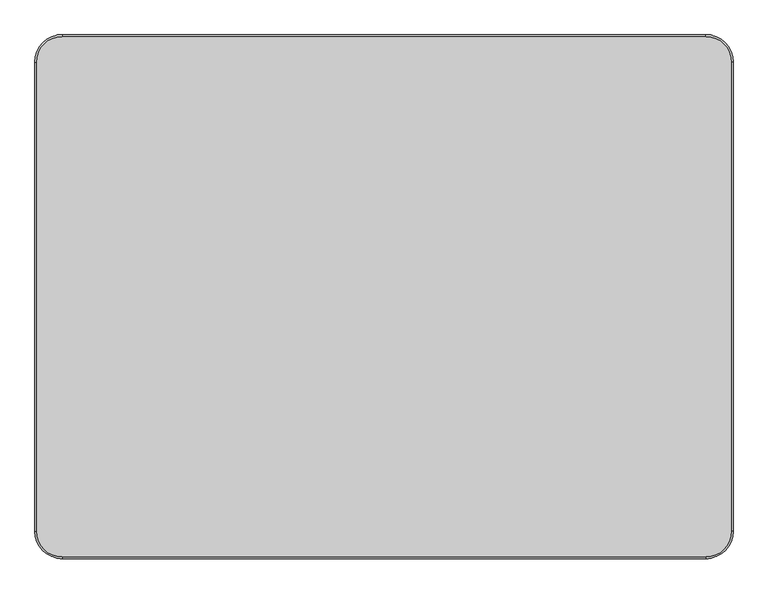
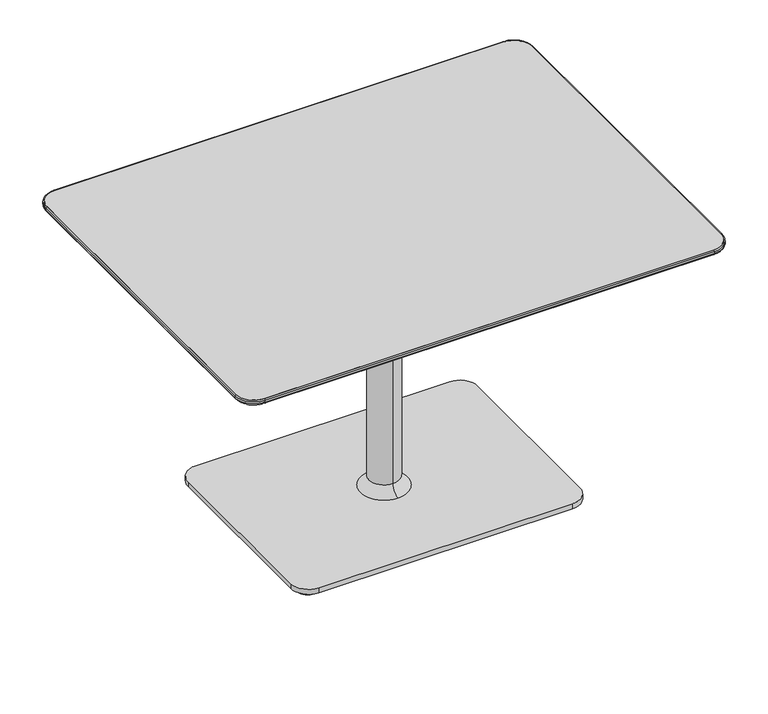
"""IFC4 building model written with IfcOpenShell, lengths in millimetres: furniture geometry, Coalesse_AM_Table_Occasional_Lagunitas_Work : 28.5H x 36D x 48W."""

import ifcopenshell
import ifcopenshell.guid

model = None  # the IFC model being written
_history = None  # IfcOwnerHistory: only IFC2X3 demands one
_inside = {}  # id of a spatial element -> (the spatial element, [elements in it])
_under = {}  # id of a project, library or spatial element -> (it, [spatial elements below it])
_declared = {}  # id of a project -> (the project, [libraries it declares])
_typed = {}  # id of a type object -> (the type object, [elements of that type])
_made_of = {}  # id of a material, layer set ... -> (it, [elements and type objects made of it])


def new_model(schema):
    """Start an empty IFC model of exactly this schema.

    Asked for "IFC4X3", IfcOpenShell would pick the latest addendum, in which some entities
    have other attributes; the version numbers below select the first issue.
    IFC2X3 requires an IfcOwnerHistory on every rooted entity: one is made here for all.
    """
    global model, _history
    if schema == "IFC4X3":
        model = ifcopenshell.file(schema_version=(4, 3, 0, 0))
    else:
        model = ifcopenshell.file(schema=schema)
    _inside.clear()
    _under.clear()
    _declared.clear()
    _typed.clear()
    _made_of.clear()
    _history = None
    if model.schema == "IFC2X3":
        org = make("IfcOrganization", Name="unknown")
        user = make(
            "IfcPersonAndOrganization",
            ThePerson=make("IfcPerson", FamilyName="unknown"),
            TheOrganization=org,
        )
        app = make(
            "IfcApplication",
            ApplicationDeveloper=org,
            Version="unknown",
            ApplicationFullName="unknown",
            ApplicationIdentifier="unknown",
        )
        _history = make(
            "IfcOwnerHistory",
            OwningUser=user,
            OwningApplication=app,
            ChangeAction="ADDED",
            CreationDate=0,
        )
    return model


def make(cls, **values):
    """One entity of the class cls with the attributes given. An attribute that is None is left unset."""
    return model.create_entity(
        cls, **{name: value for name, value in values.items() if value is not None}
    )


def rooted(cls, **values):
    """An entity with a GlobalId (a new one), such as an element, a storey or a relation."""
    return make(cls, GlobalId=ifcopenshell.guid.new(), OwnerHistory=_history, **values)


def si_unit(unit_type, name, prefix=None):
    """IfcSIUnit, for example si_unit("LENGTHUNIT", "METRE", prefix="MILLI")."""
    return make("IfcSIUnit", UnitType=unit_type, Prefix=prefix, Name=name)


def assignment(units):
    """IfcUnitAssignment: the units of a project."""
    return None if units is None else make("IfcUnitAssignment", Units=units)


def point(xyz):
    """IfcCartesianPoint."""
    return None if xyz is None else make("IfcCartesianPoint", Coordinates=xyz)


def direction(xyz):
    """IfcDirection."""
    return None if xyz is None else make("IfcDirection", DirectionRatios=xyz)


def frame(location, z_axis=None, x_axis=None):
    """IfcAxis2Placement3D, a coordinate frame: its origin and axes. An axis left out is left unset."""
    return make(
        "IfcAxis2Placement3D",
        Location=point(location),
        Axis=direction(z_axis),
        RefDirection=direction(x_axis),
    )


def frame_2d(location, x_axis=None):
    """IfcAxis2Placement2D, a coordinate frame in the plane: its origin and x axis."""
    return make(
        "IfcAxis2Placement2D", Location=point(location), RefDirection=direction(x_axis)
    )


def origin():
    """The frame at (0, 0, 0) with its axes left unset."""
    return frame((0.0, 0.0, 0.0))


def origin_with_axes():
    """The frame at (0, 0, 0) with the z axis (0, 0, 1) and the x axis (1, 0, 0) written out."""
    return frame((0.0, 0.0, 0.0), z_axis=(0.0, 0.0, 1.0), x_axis=(1.0, 0.0, 0.0))


def place(relative_to, where):
    """IfcLocalPlacement: puts the frame where relative to a parent placement (None: the world)."""
    return make(
        "IfcLocalPlacement", PlacementRelTo=relative_to, RelativePlacement=where
    )


def context(
    kind, dimensions, precision=None, world=None, true_north=None, identifier=None
):
    """IfcGeometricRepresentationContext, for example the 3D "Model" context."""
    return make(
        "IfcGeometricRepresentationContext",
        ContextIdentifier=identifier,
        ContextType=kind,
        CoordinateSpaceDimension=dimensions,
        Precision=precision,
        WorldCoordinateSystem=world,
        TrueNorth=true_north,
    )


def project(units=None, contexts=None):
    """IfcProject with its units and contexts."""
    return rooted(
        "IfcProject",
        Name="project",
        RepresentationContexts=contexts,
        UnitsInContext=assignment(units),
    )


def spatial(cls, under=None, at=None, **own):
    """A site, building, storey or space (cls), placed at a placement, below another one or the project."""
    s = rooted(cls, ObjectPlacement=at, **own)
    if under is not None:
        _under.setdefault(under.id(), (under, []))[1].append(s)
    return s


def polyline(points):
    """IfcPolyline through the points."""
    return make("IfcPolyline", Points=[point(p) for p in points])


def circle_curve(where, radius):
    """IfcCircle in the frame where."""
    return make("IfcCircle", Position=where, Radius=radius)


def ellipse_curve(where, semi_axis1, semi_axis2):
    """IfcEllipse in the frame where."""
    return make(
        "IfcEllipse", Position=where, SemiAxis1=semi_axis1, SemiAxis2=semi_axis2
    )


def trimmed(basis, trim1, trim2, sense, master):
    """IfcTrimmedCurve: the piece of a basis curve between two trims."""
    return make(
        "IfcTrimmedCurve",
        BasisCurve=basis,
        Trim1=trim1,
        Trim2=trim2,
        SenseAgreement=sense,
        MasterRepresentation=master,
    )


def segment(curve, same_sense, transition):
    """IfcCompositeCurveSegment."""
    return make(
        "IfcCompositeCurveSegment",
        Transition=transition,
        SameSense=same_sense,
        ParentCurve=curve,
    )


def composite_curve(segments, self_intersect=None):
    """IfcCompositeCurve: segments joined end to end."""
    return make("IfcCompositeCurve", Segments=segments, SelfIntersect=self_intersect)


def outline(outer, holes=None, kind="AREA"):
    """IfcArbitraryClosedProfileDef: a profile drawn as a closed curve; with holes, ...WithVoids."""
    if holes is None:
        return make("IfcArbitraryClosedProfileDef", ProfileType=kind, OuterCurve=outer)
    return make(
        "IfcArbitraryProfileDefWithVoids",
        ProfileType=kind,
        OuterCurve=outer,
        InnerCurves=holes,
    )


def extrude(swept, where, along, depth):
    """IfcExtrudedAreaSolid: the profile swept, set in the frame where, extruded along a direction by depth."""
    return make(
        "IfcExtrudedAreaSolid",
        SweptArea=swept,
        Position=where,
        ExtrudedDirection=direction(along),
        Depth=depth,
    )


def shape(context_of_items, identifier, shape_type, items):
    """IfcShapeRepresentation: the items that make up one representation, for example the "Body"."""
    return make(
        "IfcShapeRepresentation",
        ContextOfItems=context_of_items,
        RepresentationIdentifier=identifier,
        RepresentationType=shape_type,
        Items=items,
    )


def source(mapping_origin, context_of_items, identifier, shape_type, items):
    """IfcRepresentationMap: a shape defined once, which mapped items show again and again."""
    return make(
        "IfcRepresentationMap",
        MappingOrigin=mapping_origin,
        MappedRepresentation=shape(context_of_items, identifier, shape_type, items),
    )


def transform(
    local_origin,
    x_axis=None,
    y_axis=None,
    z_axis=None,
    scale=None,
    scale2=None,
    scale3=None,
    uniform=True,
):
    """IfcCartesianTransformationOperator3D, or its non-uniform kind. x_axis, y_axis, z_axis: its Axis1, 2, 3."""
    if uniform:
        return make(
            "IfcCartesianTransformationOperator3D",
            Axis1=direction(x_axis),
            Axis2=direction(y_axis),
            LocalOrigin=point(local_origin),
            Scale=scale,
            Axis3=direction(z_axis),
        )
    return make(
        "IfcCartesianTransformationOperator3DnonUniform",
        Axis1=direction(x_axis),
        Axis2=direction(y_axis),
        LocalOrigin=point(local_origin),
        Scale=scale,
        Axis3=direction(z_axis),
        Scale2=scale2,
        Scale3=scale3,
    )


def mapped(mapping_source, mapping_target):
    """IfcMappedItem: shows the shape of a source again, moved by a transform."""
    return make(
        "IfcMappedItem", MappingSource=mapping_source, MappingTarget=mapping_target
    )


def made_of(thing, what):
    """Note that an element or type object is made of a material, layer set ...; save() writes the relation."""
    if what is not None:
        _made_of.setdefault(what.id(), (what, []))[1].append(thing)
    return thing


def element(
    cls,
    number,
    at=None,
    inside=None,
    cuts=None,
    type_object=None,
    material=None,
    context=None,
    identifier="Body",
    shape_type=None,
    held_by="IfcProductDefinitionShape",
    body=None,
    shapes=None,
    **own,
):
    """One element of the class cls, such as IfcWall. Its Tag is "e" and its number.

    at: its placement. inside: the storey or other place that contains it. cuts: it is an
    opening in that element (IfcRelVoidsElement). A single representation is given by context,
    identifier, shape_type and body (its items); several are given by shapes. held_by: the class
    of the entity that holds the representations. save() writes the other relations.
    """
    e = rooted(cls, Tag="e%d" % number, ObjectPlacement=at, **own)
    if body is not None:
        shapes = [shape(context, identifier, shape_type, body)]
    if shapes is not None:
        e.Representation = make(held_by, Representations=shapes)
    if inside is not None:
        _inside.setdefault(inside.id(), (inside, []))[1].append(e)
    if cuts is not None:
        rooted(
            "IfcRelVoidsElement", RelatingBuildingElement=cuts, RelatedOpeningElement=e
        )
    if type_object is not None:
        _typed.setdefault(type_object.id(), (type_object, []))[1].append(e)
    return made_of(e, material)


def aggregate(whole, parts):
    """IfcRelAggregates: a whole, such as a stair, and the parts it consists of."""
    return rooted("IfcRelAggregates", RelatingObject=whole, RelatedObjects=parts)


def save(model, path):
    """Write the relations noted so far, then the file.

    IfcRelAggregates (storeys below a building ...), IfcRelContainedInSpatialStructure (elements
    in a storey), IfcRelDefinesByType, IfcRelAssociatesMaterial and IfcRelDeclares: one each for
    every whole, place, type object, material and project.
    """
    for whole, parts in _under.values():
        aggregate(whole, parts)
    for where, things in _inside.values():
        rooted(
            "IfcRelContainedInSpatialStructure",
            RelatedElements=things,
            RelatingStructure=where,
        )
    for kind, things in _typed.values():
        rooted("IfcRelDefinesByType", RelatedObjects=things, RelatingType=kind)
    for what, things in _made_of.values():
        rooted("IfcRelAssociatesMaterial", RelatedObjects=things, RelatingMaterial=what)
    for by, libraries in _declared.values():
        rooted("IfcRelDeclares", RelatingContext=by, RelatedDefinitions=libraries)
    model.write(path)


def plane_surface(at):
    """IfcPlane: the flat surface through the origin of the frame at, square to its z axis."""
    return make("IfcPlane", Position=at)


def cylinder_surface(at, radius):
    """IfcCylindricalSurface: all points at the distance radius from the z axis of the frame at."""
    return make("IfcCylindricalSurface", Position=at, Radius=radius)


def revolved_surface(curve, axis_point, axis_direction):
    """IfcSurfaceOfRevolution: the curve turned about the line through axis_point along axis_direction."""
    return make(
        "IfcSurfaceOfRevolution",
        SweptCurve=make("IfcArbitraryOpenProfileDef", ProfileType="CURVE", Curve=curve),
        AxisPosition=make("IfcAxis1Placement", Location=point(axis_point), Axis=direction(axis_direction)),
    )


def spline_surface(u_degree, v_degree, points, u_multiplicities, v_multiplicities, u_knots, v_knots, weights=None):
    """IfcBSplineSurfaceWithKnots; with weights, IfcRationalBSplineSurfaceWithKnots. points: one row for each step in u."""
    own = dict(
        UDegree=u_degree,
        VDegree=v_degree,
        ControlPointsList=[[point(p) for p in row] for row in points],
        SurfaceForm="UNSPECIFIED",
        UClosed=False,
        VClosed=False,
        SelfIntersect=False,
        UMultiplicities=u_multiplicities,
        VMultiplicities=v_multiplicities,
        UKnots=u_knots,
        VKnots=v_knots,
        KnotSpec="UNSPECIFIED",
    )
    if weights is None:
        return make("IfcBSplineSurfaceWithKnots", **own)
    return make("IfcRationalBSplineSurfaceWithKnots", WeightsData=weights, **own)


def advanced_brep(points, edges, surfaces, faces):
    """IfcAdvancedBrep: a solid bounded by faces that lie on surfaces and meet in shared edges.

    An edge is (start, end): straight between two places in points (the first is 0);
    or (start, end, curve); or (start, end, curve, False) where it runs against its curve.
    A face is (place in surfaces, loops), or (place, loops, False) where it looks against
    its surface's normal. A loop lists edges by number (the first is 1), with a minus sign
    where the edge is run from its end to its start. The first loop is the outer one.
    """
    corners = [point(p) for p in points]
    vertices = [make("IfcVertexPoint", VertexGeometry=c) for c in corners]
    made = []
    for start, end, *more in edges:
        made.append(
            make(
                "IfcEdgeCurve",
                EdgeStart=vertices[start],
                EdgeEnd=vertices[end],
                EdgeGeometry=more[0] if more else make("IfcPolyline", Points=[corners[start], corners[end]]),
                SameSense=more[1] if len(more) > 1 else True,
            )
        )
    hull = []
    for where, loops, *sense in faces:
        bounds = []
        for j, loop in enumerate(loops):
            ring = [make("IfcOrientedEdge", EdgeElement=made[abs(k) - 1], Orientation=k > 0) for k in loop]
            bounds.append(
                make(
                    "IfcFaceOuterBound" if j == 0 else "IfcFaceBound",
                    Bound=make("IfcEdgeLoop", EdgeList=ring),
                    Orientation=True,
                )
            )
        hull.append(make("IfcAdvancedFace", Bounds=bounds, FaceSurface=surfaces[where], SameSense=sense[0] if sense else True))
    return make("IfcAdvancedBrep", Outer=make("IfcClosedShell", CfsFaces=hull))


def furniture_e7e90b19(model_context):
    return source(origin(), model_context, "Body", "SolidModel", [
        advanced_brep(
        [(606.8570059, 409.7063839, 711.8724172), (562.4070059, 454.1563839, 711.8724172), (-561.7969941, 454.1563839, 711.8724172), (-606.2469941, 409.7063839, 711.8724172), (-606.2469941, -409.7063839, 711.8724172), (-561.7969941, -454.1563839, 711.8724172), (562.4070059, -454.1563839, 711.8724172), (606.8570059, -409.7063839, 711.8724172), (539.0389826, 386.3390054, 693.8099277), (539.0389826, -386.3390054, 693.8099277), (-538.4289709, -386.3390054, 693.8099277), (-538.4289709, 386.3390054, 693.8099277)],
        [
            (0, 1, circle_curve(frame((562.4070059, 409.7063839, 711.8724172), z_axis=(0.0, 0.0, 1.0), x_axis=(1.0, 0.0, 0.0)), 44.45)),
            (1, 2),
            (2, 3, circle_curve(frame((-561.7969941, 409.7063839, 711.8724172), z_axis=(0.0, 0.0, 1.0), x_axis=(1.0, 0.0, 0.0)), 44.45)),
            (3, 4),
            (4, 5, circle_curve(frame((-561.7969941, -409.7063839, 711.8724172), z_axis=(0.0, 0.0, 1.0), x_axis=(1.0, 0.0, 0.0)), 44.45)),
            (5, 6),
            (6, 7, circle_curve(frame((562.4070059, -409.7063839, 711.8724172), z_axis=(0.0, 0.0, 1.0), x_axis=(1.0, 0.0, 0.0)), 44.45)),
            (7, 0),
            (8, 9),
            (9, 10),
            (10, 11),
            (11, 8),
            (0, 8),
            (8, 1),
            (11, 2),
            (11, 3),
            (10, 4),
            (10, 5),
            (9, 6),
            (9, 7),
        ],
        [
            plane_surface(frame((0.3050059, 0.0, 711.8724172), z_axis=(0.0, 0.0, 1.0), x_axis=(-1.0, 0.0, 0.0))),
            plane_surface(frame((0.3050059, 0.0, 693.8099277), z_axis=(0.0, 0.0, -1.0), x_axis=(-1.0, 0.0, 0.0))),
            spline_surface(2, 1, [[(539.0389826, 386.3390054, 693.8099277), (606.8570059, 409.7063839, 711.8724172)], [(539.0389826, 386.3390054, 693.8099277), (606.8570059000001, 454.15638390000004, 711.8724172)], [(539.0389826, 386.3390054, 693.8099277), (562.4070059, 454.1563839, 711.8724172)]], [3, 3], [2, 2], [0.0, 1.0], [0.0, 1.0], weights=[[1.0, 1.0], [0.7071067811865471, 0.7071067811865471], [1.0, 1.0]]),
            plane_surface(frame((0.3050059, 386.3390054, 693.8099277), z_axis=(0.0, 0.25736805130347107, -0.9663134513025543), x_axis=(-1.0, 0.0, 0.0))),
            spline_surface(2, 1, [[(-538.4289709, 386.3390054, 693.8099277), (-561.7969941, 454.1563839, 711.8724172)], [(-538.4289709, 386.3390054, 693.8099277), (-606.2469940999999, 454.1563838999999, 711.8724172)], [(-538.4289709, 386.3390054, 693.8099277), (-606.2469941, 409.7063839, 711.8724172)]], [3, 3], [2, 2], [0.0, 1.0], [0.0, 1.0], weights=[[1.0, 1.0], [0.707106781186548, 0.707106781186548], [1.0, 1.0]]),
            plane_surface(frame((-538.4289709, 0.0, 693.8099277), z_axis=(-0.25736576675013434, 0.0, -0.9663140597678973), x_axis=(0.0, -1.0, 0.0))),
            spline_surface(2, 1, [[(-538.4289709, -386.3390054, 693.8099277), (-606.2469941, -409.7063839, 711.8724172)], [(-538.4289709, -386.3390054, 693.8099277), (-606.2469941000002, -454.15638390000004, 711.8724172)], [(-538.4289709, -386.3390054, 693.8099277), (-561.7969941, -454.1563839, 711.8724172)]], [3, 3], [2, 2], [0.0, 1.0], [0.0, 1.0], weights=[[1.0, 1.0], [0.7071067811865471, 0.7071067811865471], [1.0, 1.0]]),
            plane_surface(frame((0.3050059, -386.3390054, 693.8099277), z_axis=(0.0, -0.25736805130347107, -0.9663134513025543), x_axis=(1.0, 0.0, 0.0))),
            spline_surface(2, 1, [[(539.0389826, -386.3390054, 693.8099277), (562.4070059, -454.1563839, 711.8724172)], [(539.0389826, -386.3390054, 693.8099277), (606.8570058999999, -454.1563838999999, 711.8724172)], [(539.0389826, -386.3390054, 693.8099277), (606.8570059, -409.7063839, 711.8724172)]], [3, 3], [2, 2], [0.0, 1.0], [0.0, 1.0], weights=[[1.0, 1.0], [0.707106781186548, 0.707106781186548], [1.0, 1.0]]),
            plane_surface(frame((539.0389826, 0.0, 693.8099277), z_axis=(0.2573657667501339, 0.0, -0.9663140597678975), x_axis=(0.0, 1.0, 0.0))),
        ],
        [
            (0, [[1, 2, 3, 4, 5, 6, 7, 8]]),
            (1, [[9, 10, 11, 12]]),
            (2, [[-1, 13, 14]]),
            (3, [[-12, 15, -2, -14]]),
            (4, [[-3, -15, 16]]),
            (5, [[-11, 17, -4, -16]]),
            (6, [[-5, -17, 18]]),
            (7, [[-10, 19, -6, -18]]),
            (8, [[-7, -19, 20]]),
            (9, [[-9, -13, -8, -20]]),
        ],
    ),
        extrude(outline(composite_curve([segment(trimmed(circle_curve(frame_2d((562.4070059, 409.7063839)), 44.45), [point((562.4070059, 454.1563839))], [point((606.8570059, 409.7063839))], False, "CARTESIAN"), True, "CONTINUOUS"), segment(polyline([(606.8570059, 409.7063839), (606.8570059, -409.7063839)]), True, "CONTINUOUS"), segment(trimmed(circle_curve(frame_2d((562.4070059, -409.7063839)), 44.45), [point((606.8570059, -409.7063839))], [point((562.4070059, -454.1563839))], False, "CARTESIAN"), True, "CONTINUOUS"), segment(polyline([(562.4070059, -454.1563839), (-561.7969941, -454.1563839)]), True, "CONTINUOUS"), segment(trimmed(circle_curve(frame_2d((-561.7969941, -409.7063839)), 44.45), [point((-561.7969941, -454.1563839))], [point((-606.2469941, -409.7063839))], False, "CARTESIAN"), True, "CONTINUOUS"), segment(polyline([(-606.2469941, -409.7063839), (-606.2469941, 409.7063839)]), True, "CONTINUOUS"), segment(trimmed(circle_curve(frame_2d((-561.7969941, 409.7063839)), 44.45), [point((-606.2469941, 409.7063839))], [point((-561.7969941, 454.1563839))], False, "CARTESIAN"), True, "CONTINUOUS"), segment(polyline([(-561.7969941, 454.1563839), (562.4070059, 454.1563839)]), True, "CONTINUOUS")], self_intersect=False)), frame((0.0, 0.0, 711.8724172), z_axis=(0.0, 0.0, 1.0), x_axis=(1.0, 0.0, 0.0)), (0.0, 0.0, 1.0), 12.0275828),
        extrude(outline(composite_curve([segment(trimmed(circle_curve(frame_2d((-321.7443146, 226.8029495)), 25.4), [point((-347.1443146, 226.8029495))], [point((-296.3443146, 226.8029495))], False, "CARTESIAN"), True, "CONTINUOUS"), segment(trimmed(circle_curve(frame_2d((-321.7443146, 226.8029495)), 25.4), [point((-296.3443146, 226.8029495))], [point((-347.1443146, 226.8029495))], False, "CARTESIAN"), True, "CONTINUOUS")], self_intersect=False)), origin_with_axes(), (0.0, 0.0, 1.0), 10.6571495),
        extrude(outline(composite_curve([segment(trimmed(circle_curve(frame_2d((322.3543263, 226.8029495)), 25.4), [point((296.9543263, 226.8029495))], [point((347.7543263, 226.8029495))], False, "CARTESIAN"), True, "CONTINUOUS"), segment(trimmed(circle_curve(frame_2d((322.3543263, 226.8029495)), 25.4), [point((347.7543263, 226.8029495))], [point((296.9543263, 226.8029495))], False, "CARTESIAN"), True, "CONTINUOUS")], self_intersect=False)), origin_with_axes(), (0.0, 0.0, 1.0), 10.6571495),
        extrude(outline(composite_curve([segment(trimmed(circle_curve(frame_2d((322.3543263, -226.8029495)), 25.4), [point((296.9543263, -226.8029495))], [point((347.7543263, -226.8029495))], False, "CARTESIAN"), True, "CONTINUOUS"), segment(trimmed(circle_curve(frame_2d((322.3543263, -226.8029495)), 25.4), [point((347.7543263, -226.8029495))], [point((296.9543263, -226.8029495))], False, "CARTESIAN"), True, "CONTINUOUS")], self_intersect=False)), origin_with_axes(), (0.0, 0.0, 1.0), 10.6571495),
        extrude(outline(composite_curve([segment(trimmed(circle_curve(frame_2d((-321.7443146, -226.8029495)), 25.4), [point((-347.1443146, -226.8029495))], [point((-296.3443146, -226.8029495))], False, "CARTESIAN"), True, "CONTINUOUS"), segment(trimmed(circle_curve(frame_2d((-321.7443146, -226.8029495)), 25.4), [point((-296.3443146, -226.8029495))], [point((-347.1443146, -226.8029495))], False, "CARTESIAN"), True, "CONTINUOUS")], self_intersect=False)), origin_with_axes(), (0.0, 0.0, 1.0), 10.6571495),
        extrude(outline(composite_curve([segment(trimmed(circle_curve(frame_2d((317.8050059, 222.2481833)), 44.45), [point((317.8050059, 266.6981833))], [point((362.2550059, 222.2481833))], False, "CARTESIAN"), True, "CONTINUOUS"), segment(polyline([(362.2550059, 222.2481833), (362.2550059, -222.2481833)]), True, "CONTINUOUS"), segment(trimmed(circle_curve(frame_2d((317.8050059, -222.2481833)), 44.45), [point((362.2550059, -222.2481833))], [point((317.8050059, -266.6981833))], False, "CARTESIAN"), True, "CONTINUOUS"), segment(polyline([(317.8050059, -266.6981833), (-317.1949941, -266.6981833)]), True, "CONTINUOUS"), segment(trimmed(circle_curve(frame_2d((-317.1949941, -222.2481833)), 44.45), [point((-317.1949941, -266.6981833))], [point((-361.6449941, -222.2481833))], False, "CARTESIAN"), True, "CONTINUOUS"), segment(polyline([(-361.6449941, -222.2481833), (-361.6449941, 222.2481833)]), True, "CONTINUOUS"), segment(trimmed(circle_curve(frame_2d((-317.1949941, 222.2481833)), 44.45), [point((-361.6449941, 222.2481833))], [point((-317.1949941, 266.6981833))], False, "CARTESIAN"), True, "CONTINUOUS"), segment(polyline([(-317.1949941, 266.6981833), (317.8050059, 266.6981833)]), True, "CONTINUOUS")], self_intersect=False)), frame((0.0, 0.0, 10.6571495), z_axis=(0.0, 0.0, 1.0), x_axis=(1.0, 0.0, 0.0)), (0.0, 0.0, 1.0), 12.7000004),
        advanced_brep(
        [(-609.2930954, 409.7063839, 715.6656816), (-561.7969941, 457.2024852, 715.6656816), (-561.7969941, 454.1563839, 711.8724172), (-606.2469941, 409.7063839, 711.8724172), (-609.2930954, 409.7063839, 720.8538988), (-561.7969941, 457.2024852, 720.8538988), (-606.2469941, 409.7063839, 723.9), (-561.7969941, 454.1563839, 723.9), (-606.2469941, -409.7063839, 711.8724172), (-609.2930954, -409.7063839, 715.6656816), (-609.2930954, -409.7063839, 720.8538988), (-606.2469941, -409.7063839, 723.9), (-561.7969941, -457.2024852, 715.6656816), (-561.7969941, -454.1563839, 711.8724172), (-561.7969941, -457.2024852, 720.8538988), (-561.7969941, -454.1563839, 723.9), (562.4070059, -454.1563839, 711.8724172), (562.4070059, -457.2024852, 715.6656816), (562.4070059, -457.2024852, 720.8538988), (562.4070059, -454.1563839, 723.9), (609.9031071, -409.7063839, 715.6656816), (606.8570059, -409.7063839, 711.8724172), (609.9031071, -409.7063839, 720.8538988), (606.8570059, -409.7063839, 723.9), (606.8570059, 409.7063839, 711.8724172), (609.9031071, 409.7063839, 715.6656816), (609.9031071, 409.7063839, 720.8538988), (606.8570059, 409.7063839, 723.9), (562.4070059, 457.2024852, 715.6656816), (562.4070059, 454.1563839, 711.8724172), (562.4070059, 457.2024852, 720.8538988), (562.4070059, 454.1563839, 723.9)],
        [
            (0, 1, circle_curve(frame((-561.7969941, 409.7063839, 715.6656816), z_axis=(0.0, 0.0, -1.0), x_axis=(0.0, 1.0, 0.0)), 47.4961012)),
            (1, 2, circle_curve(frame((-561.7969941, 453.3175869, 715.6656816), z_axis=(-1.0, 0.0, 0.0), x_axis=(0.0, -1.0, 0.0)), 3.8848983)),
            (2, 3, circle_curve(frame((-561.7969941, 409.7063839, 711.8724172), z_axis=(0.0, 0.0, 1.0), x_axis=(0.0, 1.0, 0.0)), 44.45)),
            (3, 0, circle_curve(frame((-605.4081971, 409.7063839, 715.6656816), z_axis=(0.0, 1.0, 0.0), x_axis=(1.0, 0.0, 0.0)), 3.8848983)),
            (4, 5, circle_curve(frame((-561.7969941, 409.7063839, 720.8538988), z_axis=(0.0, 0.0, -1.0), x_axis=(0.0, 1.0, 0.0)), 47.4961012)),
            (5, 1),
            (0, 4),
            (6, 7, circle_curve(frame((-561.7969941, 409.7063839, 723.9), z_axis=(0.0, 0.0, -1.0), x_axis=(0.0, 1.0, 0.0)), 44.45)),
            (7, 5, circle_curve(frame((-561.7969941, 454.1563839, 720.8538988), z_axis=(-1.0, 0.0, 0.0), x_axis=(0.0, -1.0, 0.0)), 3.0461012)),
            (4, 6, circle_curve(frame((-606.2469941, 409.7063839, 720.8538988), z_axis=(0.0, 1.0, 0.0), x_axis=(1.0, 0.0, 0.0)), 3.0461012)),
            (2, 7),
            (6, 3),
            (3, 8),
            (8, 9, circle_curve(frame((-605.4081971, -409.7063839, 715.6656816), z_axis=(0.0, 1.0, 0.0), x_axis=(1.0, 0.0, 0.0)), 3.8848983)),
            (9, 0),
            (9, 10),
            (10, 4),
            (10, 11, circle_curve(frame((-606.2469941, -409.7063839, 720.8538988), z_axis=(0.0, 1.0, 0.0), x_axis=(1.0, 0.0, 0.0)), 3.0461012)),
            (11, 6),
            (11, 8),
            (12, 9, circle_curve(frame((-561.7969941, -409.7063839, 715.6656816), z_axis=(0.0, 0.0, -1.0), x_axis=(-1.0, 0.0, 0.0)), 47.4961012)),
            (8, 13, circle_curve(frame((-561.7969941, -409.7063839, 711.8724172), z_axis=(0.0, 0.0, 1.0), x_axis=(-1.0, 0.0, 0.0)), 44.45)),
            (13, 12, circle_curve(frame((-561.7969941, -453.3175869, 715.6656816), z_axis=(-1.0, 0.0, 0.0), x_axis=(0.0, 1.0, 0.0)), 3.8848983)),
            (14, 10, circle_curve(frame((-561.7969941, -409.7063839, 720.8538988), z_axis=(0.0, 0.0, -1.0), x_axis=(-1.0, 0.0, 0.0)), 47.4961012)),
            (12, 14),
            (15, 11, circle_curve(frame((-561.7969941, -409.7063839, 723.9), z_axis=(0.0, 0.0, -1.0), x_axis=(-1.0, 0.0, 0.0)), 44.45)),
            (14, 15, circle_curve(frame((-561.7969941, -454.1563839, 720.8538988), z_axis=(-1.0, 0.0, 0.0), x_axis=(0.0, 1.0, 0.0)), 3.0461012)),
            (15, 13),
            (13, 16),
            (16, 17, circle_curve(frame((562.4070059, -453.3175869, 715.6656816), z_axis=(-1.0, 0.0, 0.0), x_axis=(0.0, 1.0, 0.0)), 3.8848983)),
            (17, 12),
            (17, 18),
            (18, 14),
            (18, 19, circle_curve(frame((562.4070059, -454.1563839, 720.8538988), z_axis=(-1.0, 0.0, 0.0), x_axis=(0.0, 1.0, 0.0)), 3.0461012)),
            (19, 15),
            (19, 16),
            (20, 17, circle_curve(frame((562.4070059, -409.7063839, 715.6656816), z_axis=(0.0, 0.0, -1.0), x_axis=(0.0, -1.0, 0.0)), 47.4961012)),
            (16, 21, circle_curve(frame((562.4070059, -409.7063839, 711.8724172), z_axis=(0.0, 0.0, 1.0), x_axis=(0.0, -1.0, 0.0)), 44.45)),
            (21, 20, circle_curve(frame((606.0182088, -409.7063839, 715.6656816), z_axis=(0.0, -1.0, 0.0), x_axis=(-1.0, 0.0, 0.0)), 3.8848983)),
            (22, 18, circle_curve(frame((562.4070059, -409.7063839, 720.8538988), z_axis=(0.0, 0.0, -1.0), x_axis=(0.0, -1.0, 0.0)), 47.4961012)),
            (20, 22),
            (23, 19, circle_curve(frame((562.4070059, -409.7063839, 723.9), z_axis=(0.0, 0.0, -1.0), x_axis=(0.0, -1.0, 0.0)), 44.45)),
            (22, 23, circle_curve(frame((606.8570059, -409.7063839, 720.8538988), z_axis=(0.0, -1.0, 0.0), x_axis=(-1.0, 0.0, 0.0)), 3.0461012)),
            (23, 21),
            (21, 24),
            (24, 25, circle_curve(frame((606.0182088, 409.7063839, 715.6656816), z_axis=(0.0, -1.0, 0.0), x_axis=(-1.0, 0.0, 0.0)), 3.8848983)),
            (25, 20),
            (25, 26),
            (26, 22),
            (26, 27, circle_curve(frame((606.8570059, 409.7063839, 720.8538988), z_axis=(0.0, -1.0, 0.0), x_axis=(-1.0, 0.0, 0.0)), 3.0461012)),
            (27, 23),
            (27, 24),
            (28, 25, circle_curve(frame((562.4070059, 409.7063839, 715.6656816), z_axis=(0.0, 0.0, -1.0), x_axis=(1.0, 0.0, 0.0)), 47.4961012)),
            (24, 29, circle_curve(frame((562.4070059, 409.7063839, 711.8724172), z_axis=(0.0, 0.0, 1.0), x_axis=(1.0, 0.0, 0.0)), 44.45)),
            (29, 28, circle_curve(frame((562.4070059, 453.3175869, 715.6656816), z_axis=(1.0, 0.0, 0.0), x_axis=(0.0, -1.0, 0.0)), 3.8848983)),
            (30, 26, circle_curve(frame((562.4070059, 409.7063839, 720.8538988), z_axis=(0.0, 0.0, -1.0), x_axis=(1.0, 0.0, 0.0)), 47.4961012)),
            (28, 30),
            (31, 27, circle_curve(frame((562.4070059, 409.7063839, 723.9), z_axis=(0.0, 0.0, -1.0), x_axis=(1.0, 0.0, 0.0)), 44.45)),
            (30, 31, circle_curve(frame((562.4070059, 454.1563839, 720.8538988), z_axis=(1.0, 0.0, 0.0), x_axis=(0.0, -1.0, 0.0)), 3.0461012)),
            (31, 29),
            (29, 2),
            (1, 28),
            (5, 30),
            (7, 31),
        ],
        [
            revolved_surface(trimmed(ellipse_curve(frame((-561.7969941, 453.3175869, 715.6656816), z_axis=(1.0, 0.0, 0.0), x_axis=(0.0, -1.0, 0.0)), 3.8848983, 3.8848983), [point((-561.7969941, 454.1563839, 711.8724172))], [point((-561.7969941, 457.2024852, 715.6656816))], True, "CARTESIAN"), (-561.7969941, 409.7063839, 0.0), (0.0, 0.0, 1.0)),
            cylinder_surface(frame((-561.7969941, 409.7063839, 0.0), z_axis=(0.0, 0.0, 1.0), x_axis=(0.0, 1.0, 0.0)), 47.4961012),
            revolved_surface(trimmed(ellipse_curve(frame((-561.7969941, 454.1563839, 720.8538988), z_axis=(1.0, 0.0, 0.0), x_axis=(0.0, -1.0, 0.0)), 3.0461012, 3.0461012), [point((-561.7969941, 457.2024852, 720.8538988))], [point((-561.7969941, 454.1563839, 723.9))], True, "CARTESIAN"), (-561.7969941, 409.7063839, 0.0), (0.0, 0.0, 1.0)),
            revolved_surface(polyline([(-561.7969941, 454.1563839, 723.9), (-561.7969941, 454.1563839, 711.8724172)]), (-561.7969941, 409.7063839, 0.0), (0.0, 0.0, 1.0)),
            cylinder_surface(frame((-605.4081971, 409.7063839, 715.6656816), z_axis=(0.0, 1.0, 0.0), x_axis=(1.0, 0.0, 0.0)), 3.8848983),
            plane_surface(frame((-609.2930954, 409.7063839, 715.6656816), z_axis=(-1.0, 0.0, 0.0), x_axis=(0.0, -1.0, 0.0))),
            cylinder_surface(frame((-606.2469941, 409.7063839, 720.8538988), z_axis=(0.0, 1.0, 0.0), x_axis=(1.0, 0.0, 0.0)), 3.0461012),
            plane_surface(frame((-606.2469941, 409.7063839, 723.9), z_axis=(1.0, 0.0, 0.0), x_axis=(0.0, -1.0, 0.0))),
            revolved_surface(trimmed(ellipse_curve(frame((-605.4081971, -409.7063839, 715.6656816), z_axis=(0.0, 1.0, 0.0), x_axis=(1.0, 0.0, 0.0)), 3.8848983, 3.8848983), [point((-606.2469941, -409.7063839, 711.8724172))], [point((-609.2930954, -409.7063839, 715.6656816))], True, "CARTESIAN"), (-561.7969941, -409.7063839, 0.0), (0.0, 0.0, 1.0)),
            cylinder_surface(frame((-561.7969941, -409.7063839, 0.0), z_axis=(0.0, 0.0, 1.0), x_axis=(-1.0, 0.0, 0.0)), 47.4961012),
            revolved_surface(trimmed(ellipse_curve(frame((-606.2469941, -409.7063839, 720.8538988), z_axis=(0.0, 1.0, 0.0), x_axis=(1.0, 0.0, 0.0)), 3.0461012, 3.0461012), [point((-609.2930954, -409.7063839, 720.8538988))], [point((-606.2469941, -409.7063839, 723.9))], True, "CARTESIAN"), (-561.7969941, -409.7063839, 0.0), (0.0, 0.0, 1.0)),
            revolved_surface(polyline([(-606.2469941, -409.7063839, 723.9), (-606.2469941, -409.7063839, 711.8724172)]), (-561.7969941, -409.7063839, 0.0), (0.0, 0.0, 1.0)),
            cylinder_surface(frame((-561.7969941, -453.3175869, 715.6656816), z_axis=(-1.0, 0.0, 0.0), x_axis=(0.0, 1.0, 0.0)), 3.8848983),
            plane_surface(frame((-561.7969941, -457.2024852, 715.6656816), z_axis=(0.0, -1.0, 0.0), x_axis=(1.0, 0.0, 0.0))),
            cylinder_surface(frame((-561.7969941, -454.1563839, 720.8538988), z_axis=(-1.0, 0.0, 0.0), x_axis=(0.0, 1.0, 0.0)), 3.0461012),
            plane_surface(frame((-561.7969941, -454.1563839, 723.9), z_axis=(0.0, 1.0, 0.0), x_axis=(1.0, 0.0, 0.0))),
            revolved_surface(trimmed(ellipse_curve(frame((562.4070059, -453.3175869, 715.6656816), z_axis=(-1.0, 0.0, 0.0), x_axis=(0.0, 1.0, 0.0)), 3.8848983, 3.8848983), [point((562.4070059, -454.1563839, 711.8724172))], [point((562.4070059, -457.2024852, 715.6656816))], True, "CARTESIAN"), (562.4070059, -409.7063839, 0.0), (0.0, 0.0, 1.0)),
            cylinder_surface(frame((562.4070059, -409.7063839, 0.0), z_axis=(0.0, 0.0, 1.0), x_axis=(0.0, -1.0, 0.0)), 47.4961012),
            revolved_surface(trimmed(ellipse_curve(frame((562.4070059, -454.1563839, 720.8538988), z_axis=(-1.0, 0.0, 0.0), x_axis=(0.0, 1.0, 0.0)), 3.0461012, 3.0461012), [point((562.4070059, -457.2024852, 720.8538988))], [point((562.4070059, -454.1563839, 723.9))], True, "CARTESIAN"), (562.4070059, -409.7063839, 0.0), (0.0, 0.0, 1.0)),
            revolved_surface(polyline([(562.4070059, -454.1563839, 723.9), (562.4070059, -454.1563839, 711.8724172)]), (562.4070059, -409.7063839, 0.0), (0.0, 0.0, 1.0)),
            cylinder_surface(frame((606.0182088, -409.7063839, 715.6656816), z_axis=(0.0, -1.0, 0.0), x_axis=(-1.0, 0.0, 0.0)), 3.8848983),
            plane_surface(frame((609.9031071, -409.7063839, 715.6656816), z_axis=(1.0, 0.0, 0.0), x_axis=(0.0, 1.0, 0.0))),
            cylinder_surface(frame((606.8570059, -409.7063839, 720.8538988), z_axis=(0.0, -1.0, 0.0), x_axis=(-1.0, 0.0, 0.0)), 3.0461012),
            plane_surface(frame((606.8570059, -409.7063839, 723.9), z_axis=(-1.0, 0.0, 0.0), x_axis=(0.0, 1.0, 0.0))),
            revolved_surface(trimmed(ellipse_curve(frame((606.0182088, 409.7063839, 715.6656816), z_axis=(0.0, -1.0, 0.0), x_axis=(-1.0, 0.0, 0.0)), 3.8848983, 3.8848983), [point((606.8570059, 409.7063839, 711.8724172))], [point((609.9031071, 409.7063839, 715.6656816))], True, "CARTESIAN"), (562.4070059, 409.7063839, 0.0), (0.0, 0.0, 1.0)),
            cylinder_surface(frame((562.4070059, 409.7063839, 0.0), z_axis=(0.0, 0.0, 1.0), x_axis=(1.0, 0.0, 0.0)), 47.4961012),
            revolved_surface(trimmed(ellipse_curve(frame((606.8570059, 409.7063839, 720.8538988), z_axis=(0.0, -1.0, 0.0), x_axis=(-1.0, 0.0, 0.0)), 3.0461012, 3.0461012), [point((609.9031071, 409.7063839, 720.8538988))], [point((606.8570059, 409.7063839, 723.9))], True, "CARTESIAN"), (562.4070059, 409.7063839, 0.0), (0.0, 0.0, 1.0)),
            revolved_surface(polyline([(606.8570059, 409.7063839, 723.9), (606.8570059, 409.7063839, 711.8724172)]), (562.4070059, 409.7063839, 0.0), (0.0, 0.0, 1.0)),
            cylinder_surface(frame((562.4070059, 453.3175869, 715.6656816), z_axis=(1.0, 0.0, 0.0), x_axis=(0.0, -1.0, 0.0)), 3.8848983),
            plane_surface(frame((562.4070059, 457.2024852, 715.6656816), z_axis=(0.0, 1.0, 0.0), x_axis=(-1.0, 0.0, 0.0))),
            cylinder_surface(frame((562.4070059, 454.1563839, 720.8538988), z_axis=(1.0, 0.0, 0.0), x_axis=(0.0, -1.0, 0.0)), 3.0461012),
            plane_surface(frame((562.4070059, 454.1563839, 723.9), z_axis=(0.0, -1.0, 0.0), x_axis=(-1.0, 0.0, 0.0))),
        ],
        [
            (0, [[1, 2, 3, 4]]),
            (1, [[5, 6, -1, 7]]),
            (2, [[8, 9, -5, 10]]),
            (3, [[-3, 11, -8, 12]]),
            (4, [[-4, 13, 14, 15]]),
            (5, [[-7, -15, 16, 17]]),
            (6, [[-10, -17, 18, 19]]),
            (7, [[-12, -19, 20, -13]]),
            (8, [[21, -14, 22, 23]]),
            (9, [[24, -16, -21, 25]]),
            (10, [[26, -18, -24, 27]]),
            (11, [[-22, -20, -26, 28]]),
            (12, [[-23, 29, 30, 31]]),
            (13, [[-25, -31, 32, 33]]),
            (14, [[-27, -33, 34, 35]]),
            (15, [[-28, -35, 36, -29]]),
            (16, [[37, -30, 38, 39]]),
            (17, [[40, -32, -37, 41]]),
            (18, [[42, -34, -40, 43]]),
            (19, [[-38, -36, -42, 44]]),
            (20, [[-39, 45, 46, 47]]),
            (21, [[-41, -47, 48, 49]]),
            (22, [[-43, -49, 50, 51]]),
            (23, [[-44, -51, 52, -45]]),
            (24, [[53, -46, 54, 55]]),
            (25, [[56, -48, -53, 57]]),
            (26, [[58, -50, -56, 59]]),
            (27, [[-54, -52, -58, 60]]),
            (28, [[-55, 61, -2, 62]]),
            (29, [[-57, -62, -6, 63]]),
            (30, [[-59, -63, -9, 64]]),
            (31, [[-60, -64, -11, -61]]),
        ],
    ),
        advanced_brep(
        [(0.3050059, -37.9287895, 564.3567695), (0.3050059, 37.9287895, 564.3567695), (0.3050059, 37.9287895, 50.0429711), (0.3050059, -37.9287895, 50.0429711), (0.3050059, -59.3395816, 602.3698908), (0.3050059, 59.3395816, 602.3698908), (0.3050059, -197.9068019, 686.3534968), (0.3050059, 197.9068019, 686.3534968), (0.3050059, -212.4265152, 690.4101307), (0.3050059, 212.4265152, 690.4101307), (0.3050059, -226.4292749, 690.4101307), (0.3050059, 226.4292749, 690.4101307), (0.3050059, -228.4774392, 693.8099277), (0.3050059, 228.4774392, 693.8099277), (0.3050059, 0.0, 693.8099277), (0.3050059, -60.2304855, 23.3571499), (0.3050059, 60.2304855, 23.3571499), (0.3050059, 0.0, 23.3571499)],
        [
            (0, 1, circle_curve(frame((0.3050059, 0.0, 564.3567695), z_axis=(0.0, 0.0, -1.0), x_axis=(0.0, 1.0, 0.0)), 37.9287895)),
            (1, 2),
            (2, 3, circle_curve(frame((0.3050059, 0.0, 50.0429711), z_axis=(0.0, 0.0, 1.0), x_axis=(0.0, 1.0, 0.0)), 37.9287895)),
            (3, 0),
            (1, 0, circle_curve(frame((0.3050059, 0.0, 564.3567695), z_axis=(0.0, 0.0, -1.0), x_axis=(0.0, 1.0, 0.0)), 37.9287895)),
            (3, 2, circle_curve(frame((0.3050059, 0.0, 50.0429711), z_axis=(0.0, 0.0, 1.0), x_axis=(0.0, 1.0, 0.0)), 37.9287895)),
            (4, 5, circle_curve(frame((0.3050059, 0.0, 602.3698908), z_axis=(0.0, 0.0, -1.0), x_axis=(0.0, 1.0, 0.0)), 59.3395816)),
            (5, 1, circle_curve(frame((0.3050059, 82.3787895, 564.3567695), z_axis=(1.0, 0.0, 0.0), x_axis=(0.0, 1.0, 0.0)), 44.45)),
            (0, 4, circle_curve(frame((0.3050059, -82.3787895, 564.3567695), z_axis=(1.0, 0.0, 0.0), x_axis=(0.0, -1.0, 0.0)), 44.45)),
            (5, 4, circle_curve(frame((0.3050059, 0.0, 602.3698908), z_axis=(0.0, 0.0, -1.0), x_axis=(0.0, 1.0, 0.0)), 59.3395816)),
            (6, 7, circle_curve(frame((0.3050059, 0.0, 686.3534968), z_axis=(0.0, 0.0, -1.0), x_axis=(0.0, 1.0, 0.0)), 197.9068019)),
            (7, 5),
            (4, 6),
            (7, 6, circle_curve(frame((0.3050059, 0.0, 686.3534968), z_axis=(0.0, 0.0, -1.0), x_axis=(0.0, 1.0, 0.0)), 197.9068019)),
            (8, 9, circle_curve(frame((0.3050059, 0.0, 690.4101307), z_axis=(0.0, 0.0, -1.0), x_axis=(0.0, 1.0, 0.0)), 212.4265152)),
            (9, 7, circle_curve(frame((0.3050059, 212.4265152, 662.3969605), z_axis=(1.0, 0.0, 0.0), x_axis=(0.0, 1.0, 0.0)), 28.0131702)),
            (6, 8, circle_curve(frame((0.3050059, -212.4265152, 662.3969605), z_axis=(1.0, 0.0, 0.0), x_axis=(0.0, -1.0, 0.0)), 28.0131702)),
            (9, 8, circle_curve(frame((0.3050059, 0.0, 690.4101307), z_axis=(0.0, 0.0, -1.0), x_axis=(0.0, 1.0, 0.0)), 212.4265152)),
            (10, 11, circle_curve(frame((0.3050059, 0.0, 690.4101307), z_axis=(0.0, 0.0, -1.0), x_axis=(0.0, 1.0, 0.0)), 226.4292749)),
            (11, 9),
            (8, 10),
            (11, 10, circle_curve(frame((0.3050059, 0.0, 690.4101307), z_axis=(0.0, 0.0, -1.0), x_axis=(0.0, 1.0, 0.0)), 226.4292749)),
            (12, 13, circle_curve(frame((0.3050059, 0.0, 693.8099277), z_axis=(0.0, 0.0, -1.0), x_axis=(0.0, 1.0, 0.0)), 228.4774392)),
            (13, 11, circle_curve(frame((0.3050059, 226.4292749, 692.7269744), z_axis=(-1.0, 0.0, 0.0), x_axis=(0.0, 1.0, 0.0)), 2.3168437)),
            (10, 12, circle_curve(frame((0.3050059, -226.4292749, 692.7269744), z_axis=(-1.0, 0.0, 0.0), x_axis=(0.0, -1.0, 0.0)), 2.3168437)),
            (13, 12, circle_curve(frame((0.3050059, 0.0, 693.8099277), z_axis=(0.0, 0.0, -1.0), x_axis=(0.0, 1.0, 0.0)), 228.4774392)),
            (14, 13),
            (12, 14),
            (15, 16, circle_curve(frame((0.3050059, 0.0, 23.3571499), z_axis=(0.0, 0.0, -1.0), x_axis=(0.0, 1.0, 0.0)), 60.2304855)),
            (16, 17),
            (17, 15),
            (16, 15, circle_curve(frame((0.3050059, 0.0, 23.3571499), z_axis=(0.0, 0.0, -1.0), x_axis=(0.0, 1.0, 0.0)), 60.2304855)),
            (2, 16, circle_curve(frame((0.3050059, 65.045532, 50.0429711), z_axis=(1.0, 0.0, 0.0), x_axis=(0.0, 1.0, 0.0)), 27.1167425)),
            (15, 3, circle_curve(frame((0.3050059, -65.045532, 50.0429711), z_axis=(1.0, 0.0, 0.0), x_axis=(0.0, -1.0, 0.0)), 27.1167425)),
        ],
        [
            cylinder_surface(frame((0.3050059, 0.0, 801.7745102), z_axis=(0.0, 0.0, 1.0), x_axis=(0.0, 1.0, 0.0)), 37.9287895),
            revolved_surface(trimmed(ellipse_curve(frame((0.3050059, 82.3787895, 564.3567695), z_axis=(-1.0, 0.0, 0.0), x_axis=(0.0, 1.0, 0.0)), 44.45, 44.45), [point((0.3050059, 37.9287895, 564.3567695))], [point((0.3050059, 59.3395816, 602.3698908))], True, "CARTESIAN"), (0.3050059, 0.0, 801.7745102), (0.0, 0.0, 1.0)),
            revolved_surface(polyline([(0.3050059, 59.3395816, 602.3698908), (0.3050059, 197.9068019, 686.3534968)]), (0.3050059, 0.0, 801.7745102), (0.0, 0.0, 1.0)),
            revolved_surface(trimmed(ellipse_curve(frame((0.3050059, 212.4265152, 662.3969605), z_axis=(-1.0, 0.0, 0.0), x_axis=(0.0, 1.0, 0.0)), 28.0131702, 28.0131702), [point((0.3050059, 197.9068019, 686.3534968))], [point((0.3050059, 212.4265152, 690.4101307))], True, "CARTESIAN"), (0.3050059, 0.0, 801.7745102), (0.0, 0.0, 1.0)),
            plane_surface(frame((0.3050059, 0.0, 690.4101307), z_axis=(0.0, 0.0, -1.0), x_axis=(0.0, 1.0, 0.0))),
            revolved_surface(trimmed(ellipse_curve(frame((0.3050059, 226.4292749, 692.7269744), z_axis=(1.0, 0.0, 0.0), x_axis=(0.0, 1.0, 0.0)), 2.3168437, 2.3168437), [point((0.3050059, 226.4292749, 690.4101307))], [point((0.3050059, 228.4774392, 693.8099277))], True, "CARTESIAN"), (0.3050059, 0.0, 801.7745102), (0.0, 0.0, 1.0)),
            plane_surface(frame((0.3050059, 0.0, 693.8099277), z_axis=(0.0, 0.0, 1.0), x_axis=(0.0, 1.0, 0.0))),
            plane_surface(frame((0.3050059, 0.0, 23.3571499), z_axis=(0.0, 0.0, -1.0), x_axis=(0.0, 1.0, 0.0))),
            revolved_surface(trimmed(ellipse_curve(frame((0.3050059, 65.045532, 50.0429711), z_axis=(-1.0, 0.0, 0.0), x_axis=(0.0, 1.0, 0.0)), 27.1167425, 27.1167425), [point((0.3050059, 60.2304855, 23.3571499))], [point((0.3050059, 37.9287895, 50.0429711))], True, "CARTESIAN"), (0.3050059, 0.0, 801.7745102), (0.0, 0.0, 1.0)),
        ],
        [
            (0, [[1, 2, 3, 4]]),
            (0, [[5, -4, 6, -2]]),
            (1, [[7, 8, -1, 9]]),
            (1, [[10, -9, -5, -8]]),
            (2, [[11, 12, -7, 13]]),
            (2, [[14, -13, -10, -12]]),
            (3, [[15, 16, -11, 17]]),
            (3, [[18, -17, -14, -16]]),
            (4, [[19, 20, -15, 21]]),
            (4, [[22, -21, -18, -20]]),
            (5, [[23, 24, -19, 25]]),
            (5, [[26, -25, -22, -24]]),
            (6, [[27, -23, 28]]),
            (6, [[-28, -26, -27]]),
            (7, [[29, 30, 31]]),
            (7, [[32, -31, -30]]),
            (8, [[-3, 33, -29, 34]]),
            (8, [[-6, -34, -32, -33]]),
        ],
    ),
    ])


if __name__ == "__main__":
    model = new_model("IFC4")
    model_context = context("Model", 3, world=origin())
    ifc_project = project(units=[si_unit("LENGTHUNIT", "METRE", prefix="MILLI")], contexts=[model_context])
    site = spatial("IfcSite", under=ifc_project)
    building = spatial("IfcBuilding", under=site)
    placement = place(None, origin())
    furniture_shape = furniture_e7e90b19(model_context)
    element("IfcFurniture", 1, ObjectType="Coalesse_AM_Table_Occasional_Lagunitas_Work : 28.5H x 36D x 48W", at=placement, inside=building, context=model_context, shape_type="MappedRepresentation", body=[
        mapped(furniture_shape, transform((0.0, 0.0, 0.0), x_axis=(1.0, 0.0, 0.0), y_axis=(0.0, 1.0, 0.0), z_axis=(0.0, 0.0, 1.0))),
    ])
    save(model, "model.ifc")
